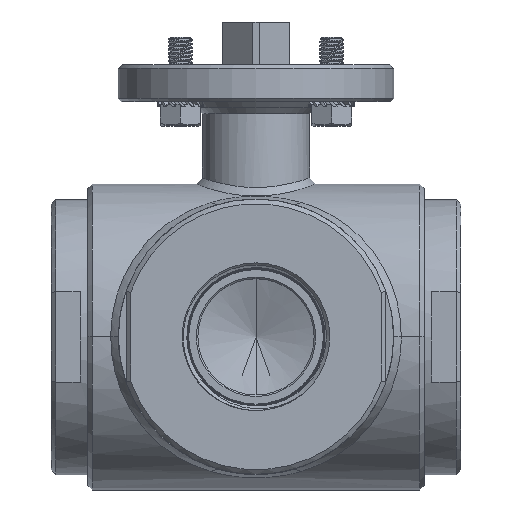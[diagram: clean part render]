
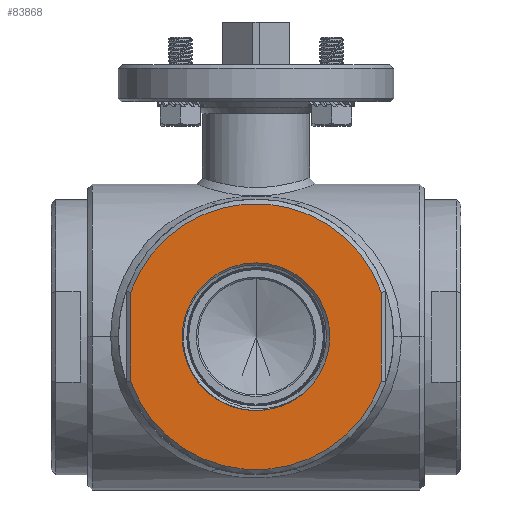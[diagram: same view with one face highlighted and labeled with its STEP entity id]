
A CAD part, top view. The second image highlights one B-rep face of the part: STEP entity #83868.
In plain terms, the highlighted planar face has unit normal (0, 0, 1).
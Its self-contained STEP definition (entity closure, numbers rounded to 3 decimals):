
#8586=DIRECTION('',(0.,1.,0.));
#8587=VECTOR('',#8586,29.069);
#8588=CARTESIAN_POINT('',(41.,-14.534,67.));
#8589=LINE('',#8588,#8587);
#8593=DIRECTION('',(0.,-1.,0.));
#8594=VECTOR('',#8593,29.069);
#8595=CARTESIAN_POINT('',(-41.,14.534,67.));
#8596=LINE('',#8595,#8594);
#8600=CARTESIAN_POINT('',(0.,0.,67.));
#8601=DIRECTION('',(0.,0.,-1.));
#8602=DIRECTION('',(0.,-1.,0.));
#8603=AXIS2_PLACEMENT_3D('',#8600,#8601,#8602);
#8608=CARTESIAN_POINT('',(0.,0.,67.));
#8609=DIRECTION('',(0.,0.,-1.));
#8610=DIRECTION('',(0.,1.,0.));
#8611=AXIS2_PLACEMENT_3D('',#8608,#8609,#8610);
#8616=CARTESIAN_POINT('',(0.,0.,67.));
#8617=DIRECTION('',(0.,0.,1.));
#8618=DIRECTION('',(0.943,0.334,0.));
#8619=AXIS2_PLACEMENT_3D('',#8616,#8617,#8618);
#8644=CARTESIAN_POINT('',(0.,0.,67.));
#8645=DIRECTION('',(0.,0.,1.));
#8646=DIRECTION('',(-0.943,-0.334,0.));
#8647=AXIS2_PLACEMENT_3D('',#8644,#8645,#8646);
#74205=CARTESIAN_POINT('',(0.,-24.15,67.));
#74206=CARTESIAN_POINT('',(0.,24.15,67.));
#74207=VERTEX_POINT('',#74205);
#74208=VERTEX_POINT('',#74206);
#74217=CARTESIAN_POINT('',(41.,-14.534,67.));
#74218=CARTESIAN_POINT('',(41.,14.534,67.));
#74219=VERTEX_POINT('',#74217);
#74220=VERTEX_POINT('',#74218);
#74225=CARTESIAN_POINT('',(-41.,14.534,67.));
#74226=CARTESIAN_POINT('',(-41.,-14.534,67.));
#74227=VERTEX_POINT('',#74225);
#74228=VERTEX_POINT('',#74226);
#83849=CARTESIAN_POINT('',(0.,0.,67.));
#83850=DIRECTION('',(0.,0.,1.));
#83851=DIRECTION('',(0.,1.,0.));
#83852=AXIS2_PLACEMENT_3D('',#83849,#83850,#83851);
#83853=PLANE('',#83852);
#83855=ORIENTED_EDGE('',*,*,#83854,.F.);
#83857=ORIENTED_EDGE('',*,*,#83856,.F.);
#83859=ORIENTED_EDGE('',*,*,#83858,.F.);
#83861=ORIENTED_EDGE('',*,*,#83860,.F.);
#83862=EDGE_LOOP('',(#83855,#83857,#83859,#83861));
#83863=FACE_OUTER_BOUND('',#83862,.F.);
#83864=ORIENTED_EDGE('',*,*,#83843,.F.);
#83865=ORIENTED_EDGE('',*,*,#83523,.F.);
#83866=EDGE_LOOP('',(#83864,#83865));
#83867=FACE_BOUND('',#83866,.F.);
#83868=ADVANCED_FACE('',(#83863,#83867),#83853,.T.);
#8604=CIRCLE('',#8603,24.15);
#8612=CIRCLE('',#8611,24.15);
#8620=CIRCLE('',#8619,43.5);
#8648=CIRCLE('',#8647,43.5);
#83523=EDGE_CURVE('',#74208,#74207,#8612,.T.);
#83843=EDGE_CURVE('',#74207,#74208,#8604,.T.);
#83854=EDGE_CURVE('',#74220,#74227,#8620,.T.);
#83856=EDGE_CURVE('',#74219,#74220,#8589,.T.);
#83858=EDGE_CURVE('',#74228,#74219,#8648,.T.);
#83860=EDGE_CURVE('',#74227,#74228,#8596,.T.);
